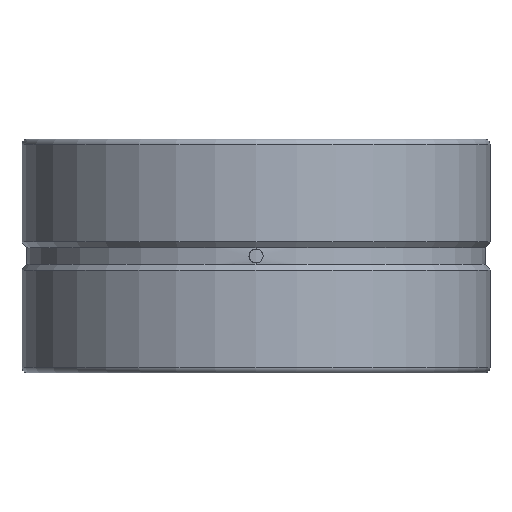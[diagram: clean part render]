
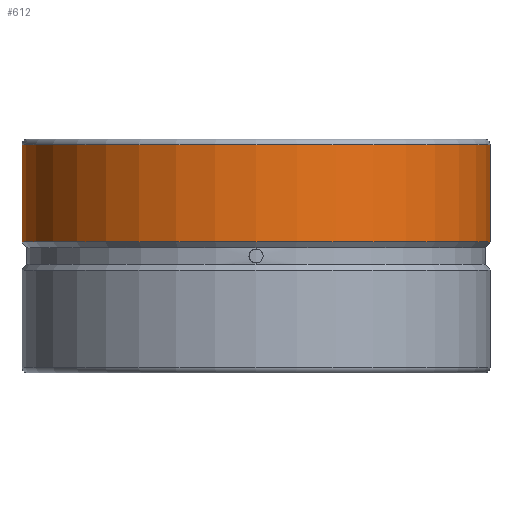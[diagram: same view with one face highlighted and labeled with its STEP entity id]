
A CAD part, front view. The second image highlights one B-rep face of the part: STEP entity #612.
In plain terms, the highlighted cylindrical face has radius 40 mm (diameter 80 mm), a full revolution.
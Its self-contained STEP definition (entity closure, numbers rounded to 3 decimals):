
#149=CIRCLE('',#666,40.);
#150=CIRCLE('',#668,40.);
#202=FACE_BOUND('',#303,.T.);
#251=FACE_OUTER_BOUND('',#302,.T.);
#302=EDGE_LOOP('',(#500));
#303=EDGE_LOOP('',(#501));
#403=VERTEX_POINT('',#1234);
#404=VERTEX_POINT('',#1237);
#451=EDGE_CURVE('',#403,#403,#149,.T.);
#452=EDGE_CURVE('',#404,#404,#150,.T.);
#500=ORIENTED_EDGE('',*,*,#452,.T.);
#501=ORIENTED_EDGE('',*,*,#451,.F.);
#591=CYLINDRICAL_SURFACE('',#667,40.);
#612=ADVANCED_FACE('',(#251,#202),#591,.T.);
#666=AXIS2_PLACEMENT_3D('',#1235,#791,#792);
#667=AXIS2_PLACEMENT_3D('',#1236,#793,#794);
#668=AXIS2_PLACEMENT_3D('',#1238,#795,#796);
#791=DIRECTION('center_axis',(0.,0.,1.));
#792=DIRECTION('ref_axis',(0.,-1.,0.));
#793=DIRECTION('center_axis',(0.,0.,-1.));
#794=DIRECTION('ref_axis',(0.,1.,0.));
#795=DIRECTION('center_axis',(0.,0.,1.));
#796=DIRECTION('ref_axis',(0.,1.,0.));
#1234=CARTESIAN_POINT('',(0.,40.,29.517));
#1235=CARTESIAN_POINT('Origin',(0.,0.,29.517));
#1236=CARTESIAN_POINT('Origin',(0.,0.,10.517));
#1237=CARTESIAN_POINT('',(0.,40.,12.917));
#1238=CARTESIAN_POINT('Origin',(0.,0.,12.917));
